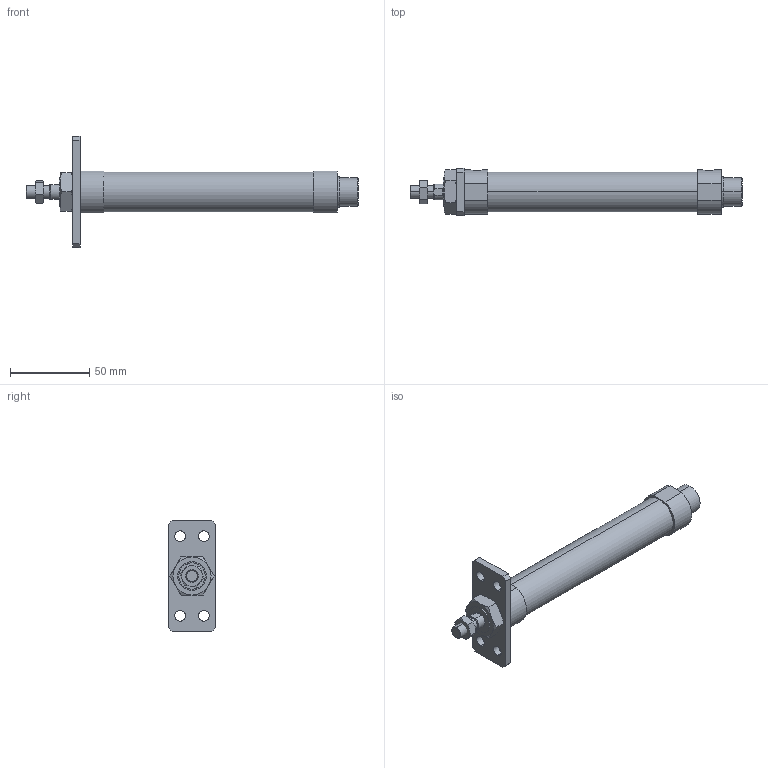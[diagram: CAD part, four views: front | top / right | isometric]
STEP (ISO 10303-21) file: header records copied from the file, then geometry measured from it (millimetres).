
FILE_DESCRIPTION (( 'STEP AP203' ), '1' );
FILE_NAME ('J#2-20-100-A.STEP', '2016-03-08T07:01:13', ( '' ), ( '' ), 'SwSTEP 2.0', 'SolidWorks 2014', '' );
FILE_SCHEMA (( 'CONFIG_CONTROL_DESIGN' ));
Length unit declared in the file: millimetre
Products named in the file (5): J#2-20-100-A; J#2-20-A; J#2-20-100
Assembly tree (4 placements, depth 2):
  J#2-20-100-A
    J#2-20-100
    (unnamed)
    (unnamed)
    J#2-20-A
Bounding box: 209 x 30 x 70 mm (x, y, z)
Volume: 99488.3 mm3; surface area: 24140 mm2
Topology: 4 solids, 4 shells, 112 faces, 252 edges, 158 vertices
Faces by surface type: plane 46, cylinder 36, torus 24, cone 6
Entity records: 4013 total; most frequent: CARTESIAN_POINT 985, DIRECTION 536, ORIENTED_EDGE 504, EDGE_CURVE 252, AXIS2_PLACEMENT_3D 221, VERTEX_POINT 158, EDGE_LOOP 136, ADVANCED_FACE 112
